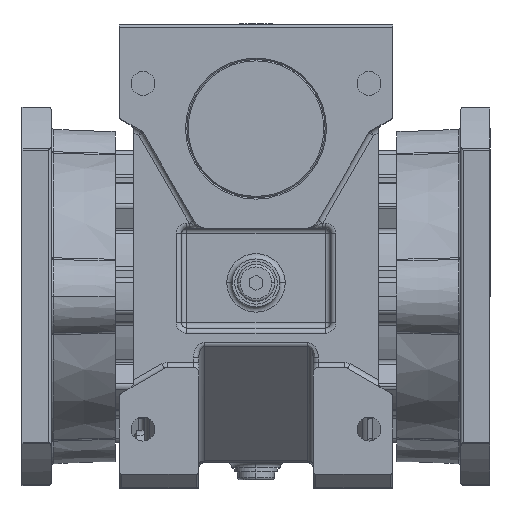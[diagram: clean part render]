
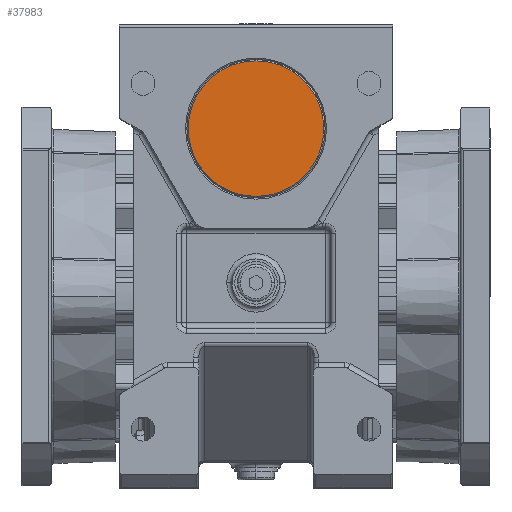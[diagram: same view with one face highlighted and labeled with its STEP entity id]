
A CAD part, top view. The second image highlights one B-rep face of the part: STEP entity #37983.
In plain terms, the highlighted planar face has unit normal (0, 0, 1).
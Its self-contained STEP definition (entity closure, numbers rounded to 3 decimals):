
#1961 = DIRECTION ( 'NONE',  ( 0., 0., -1. ) ) ;
#3313 = ORIENTED_EDGE ( 'NONE', *, *, #51712, .F. ) ;
#5104 = FACE_OUTER_BOUND ( 'NONE', #58493, .T. ) ;
#9640 = VERTEX_POINT ( 'NONE', #18972 ) ;
#11548 = VERTEX_POINT ( 'NONE', #26677 ) ;
#17437 = AXIS2_PLACEMENT_3D ( 'NONE', #52948, #59532, #80698 ) ;
#18972 = CARTESIAN_POINT ( 'NONE',  ( -25.5, 63., 72. ) ) ;
#21640 = DIRECTION ( 'NONE',  ( -1., 0., 0. ) ) ;
#25479 = AXIS2_PLACEMENT_3D ( 'NONE', #41553, #1961, #21640 ) ;
#26255 = AXIS2_PLACEMENT_3D ( 'NONE', #59304, #26522, #26809 ) ;
#26522 = DIRECTION ( 'NONE',  ( 0., 0., -1. ) ) ;
#26677 = CARTESIAN_POINT ( 'NONE',  ( 25.5, 63., 72. ) ) ;
#26809 = DIRECTION ( 'NONE',  ( -1., 0., 0. ) ) ;
#31716 = EDGE_CURVE ( 'NONE', #11548, #9640, #67437, .T. ) ;
#37983 = ADVANCED_FACE ( 'NONE', ( #5104 ), #59243, .T. ) ;
#38163 = ORIENTED_EDGE ( 'NONE', *, *, #31716, .F. ) ;
#41553 = CARTESIAN_POINT ( 'NONE',  ( 0., 63., 72. ) ) ;
#51712 = EDGE_CURVE ( 'NONE', #9640, #11548, #78340, .T. ) ;
#52948 = CARTESIAN_POINT ( 'NONE',  ( 0., 63., 72. ) ) ;
#58493 = EDGE_LOOP ( 'NONE', ( #3313, #38163 ) ) ;
#59243 = PLANE ( 'NONE',  #17437 ) ;
#59304 = CARTESIAN_POINT ( 'NONE',  ( 0., 63., 72. ) ) ;
#59532 = DIRECTION ( 'NONE',  ( 0., 0., 1. ) ) ;
#67437 = CIRCLE ( 'NONE', #26255, 25.5 ) ;
#78340 = CIRCLE ( 'NONE', #25479, 25.5 ) ;
#80698 = DIRECTION ( 'NONE',  ( 1., 0., 0. ) ) ;
